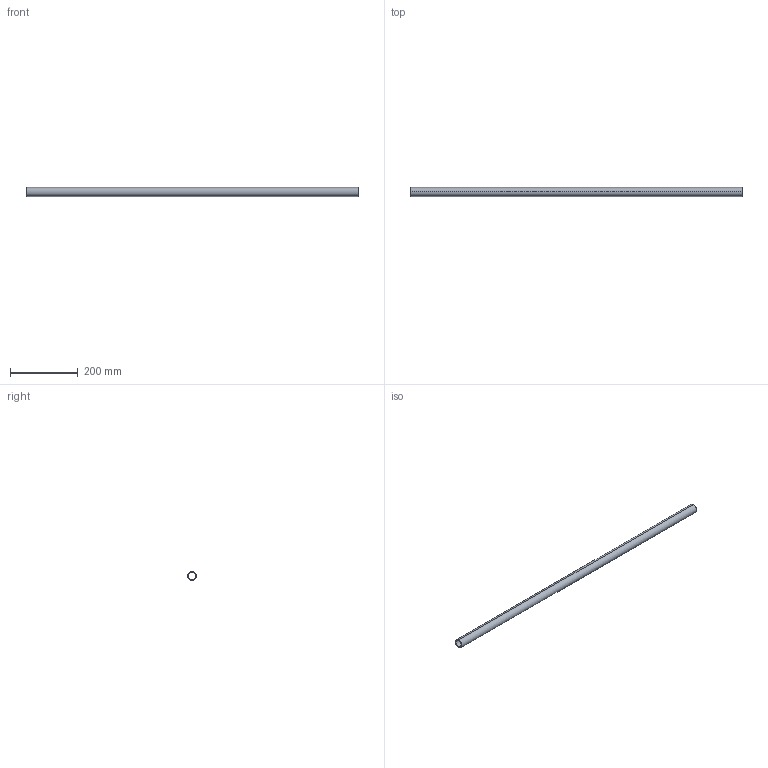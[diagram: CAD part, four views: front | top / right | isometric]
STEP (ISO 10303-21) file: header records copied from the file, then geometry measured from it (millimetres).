
FILE_DESCRIPTION (( 'STEP AP214' ), '1' );
FILE_NAME ('CCJ029-REP.354 - LISSE PLATEFORME INTERMEDIAIRE FILE B.STEP', '2025-11-04T10:51:12', ( '' ), ( '' ), 'SwSTEP 2.0', 'SolidWorks 2021', '' );
FILE_SCHEMA (( 'AUTOMOTIVE_DESIGN' ));
Length unit declared in the file: millimetre
Products named in the file (1): CCJ029-REP.354 - LISSE PLATEFORME INTERMEDIAIRE FILE B
Bounding box: 980 x 26.9 x 26.9 mm (x, y, z)
Volume: 174196.3 mm3; surface area: 151830.5 mm2
Topology: 1 solids, 1 shells, 6 faces, 12 edges, 8 vertices
Faces by surface type: cylinder 4, plane 2
Entity records: 202 total; most frequent: DIRECTION 34, CARTESIAN_POINT 27, ORIENTED_EDGE 24, AXIS2_PLACEMENT_3D 15, EDGE_CURVE 12, CIRCLE 8, EDGE_LOOP 8, VERTEX_POINT 8
